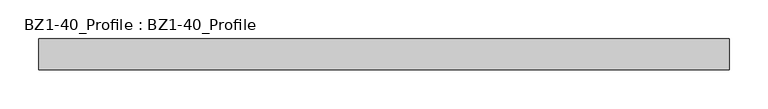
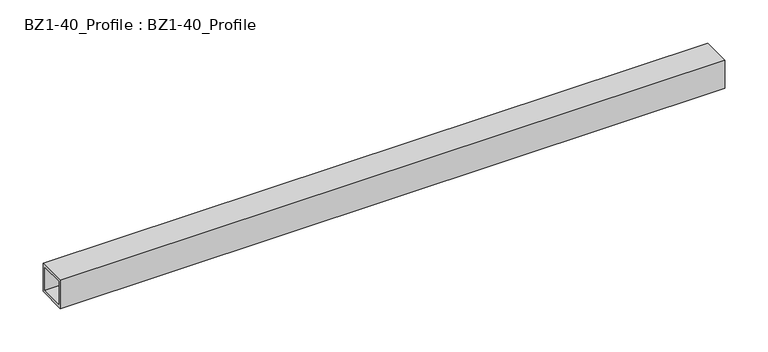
"""IFC4 building model written with IfcOpenShell, lengths in millimetres: beam geometry, BZ1-40_Profile : BZ1-40_Profile."""

from ifc_helpers import new_model, si_unit, frame, origin, place, context, project, spatial, polyline, outline, extrude, source, transform, mapped, element, save


def bz1_40_profile_bz1_40_profile_ab947e13(model_context):
    return source(origin(), model_context, "Body", "SweptSolid", [
        extrude(outline(polyline([(-20.0, 20.0), (20.0, 20.0), (20.0, -20.0), (-20.0, -20.0), (-20.0, 20.0)]), holes=[polyline([(-16.0, 16.0), (-16.0, -16.0), (16.0, -16.0), (16.0, 16.0), (-16.0, 16.0)])]), frame((-445.0, 0.0, 0.0), z_axis=(1.0, 0.0, 0.0), x_axis=(0.0, 1.0, 0.0)), (0.0, 0.0, 1.0), 890.0),
    ])


if __name__ == "__main__":
    model = new_model("IFC4")
    model_context = context("Model", 3, world=origin())
    ifc_project = project(units=[si_unit("LENGTHUNIT", "METRE", prefix="MILLI")], contexts=[model_context])
    site = spatial("IfcSite", under=ifc_project)
    building = spatial("IfcBuilding", under=site)
    placement = place(None, origin())
    bz1_40_profile_bz1_40_profile_shape = bz1_40_profile_bz1_40_profile_ab947e13(model_context)
    element("IfcBeam", 1, ObjectType="BZ1-40_Profile : BZ1-40_Profile", at=placement, inside=building, context=model_context, shape_type="MappedRepresentation", body=[
        mapped(bz1_40_profile_bz1_40_profile_shape, transform((0.0, 0.0, 0.0), x_axis=(1.0, 0.0, 0.0), y_axis=(0.0, 1.0, 0.0), z_axis=(0.0, 0.0, 1.0))),
    ])
    save(model, "model.ifc")
